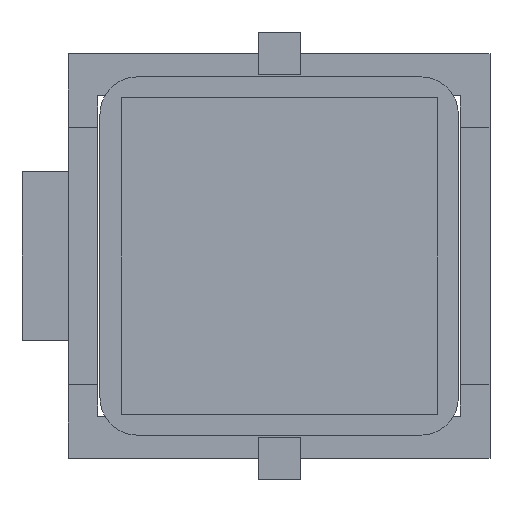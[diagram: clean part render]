
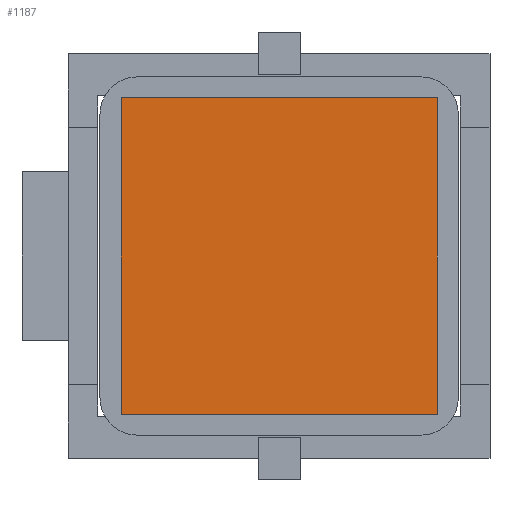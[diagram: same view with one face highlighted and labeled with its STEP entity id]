
A CAD part, front view. The second image highlights one B-rep face of the part: STEP entity #1187.
In plain terms, the highlighted planar face has unit normal (0, -1, 0).
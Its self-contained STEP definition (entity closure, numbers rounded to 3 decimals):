
#5 = VECTOR ( 'NONE', #4349, 1000. ) ;
#80 = CARTESIAN_POINT ( 'NONE',  ( -3.413, -13.936, 14.725 ) ) ;
#148 = CARTESIAN_POINT ( 'NONE',  ( -3.413, -13.936, 14.725 ) ) ;
#293 = VECTOR ( 'NONE', #2383, 1000. ) ;
#315 = VERTEX_POINT ( 'NONE', #3814 ) ;
#468 = DIRECTION ( 'NONE',  ( 0., 0., 1. ) ) ;
#679 = EDGE_LOOP ( 'NONE', ( #1474, #4099, #3527, #2072 ) ) ;
#703 = LINE ( 'NONE', #2103, #293 ) ;
#949 = DIRECTION ( 'NONE',  ( 0., 0., 1. ) ) ;
#999 = EDGE_CURVE ( 'NONE', #3413, #315, #2523, .T. ) ;
#1181 = DIRECTION ( 'NONE',  ( 0., 1., 0. ) ) ;
#1187 = ADVANCED_FACE ( 'NONE', ( #3085 ), #3130, .F. ) ;
#1474 = ORIENTED_EDGE ( 'NONE', *, *, #4162, .F. ) ;
#1535 = CARTESIAN_POINT ( 'NONE',  ( 11.587, -13.936, -0.275 ) ) ;
#1546 = LINE ( 'NONE', #2967, #2971 ) ;
#1607 = EDGE_CURVE ( 'NONE', #315, #2141, #703, .T. ) ;
#1641 = DIRECTION ( 'NONE',  ( 1., 0., 0. ) ) ;
#1670 = CARTESIAN_POINT ( 'NONE',  ( -3.413, -13.936, -0.275 ) ) ;
#2072 = ORIENTED_EDGE ( 'NONE', *, *, #4367, .F. ) ;
#2103 = CARTESIAN_POINT ( 'NONE',  ( -3.413, -13.936, -0.275 ) ) ;
#2141 = VERTEX_POINT ( 'NONE', #4332 ) ;
#2201 = VECTOR ( 'NONE', #949, 1000. ) ;
#2383 = DIRECTION ( 'NONE',  ( -1., 0., 0. ) ) ;
#2402 = CARTESIAN_POINT ( 'NONE',  ( 11.587, -13.936, 14.725 ) ) ;
#2523 = LINE ( 'NONE', #1535, #5 ) ;
#2967 = CARTESIAN_POINT ( 'NONE',  ( -3.413, -13.936, 14.725 ) ) ;
#2971 = VECTOR ( 'NONE', #1641, 1000. ) ;
#3085 = FACE_OUTER_BOUND ( 'NONE', #679, .T. ) ;
#3130 = PLANE ( 'NONE',  #3908 ) ;
#3413 = VERTEX_POINT ( 'NONE', #2402 ) ;
#3527 = ORIENTED_EDGE ( 'NONE', *, *, #999, .F. ) ;
#3814 = CARTESIAN_POINT ( 'NONE',  ( 11.587, -13.936, -0.275 ) ) ;
#3854 = LINE ( 'NONE', #1670, #2201 ) ;
#3908 = AXIS2_PLACEMENT_3D ( 'NONE', #80, #1181, #468 ) ;
#4099 = ORIENTED_EDGE ( 'NONE', *, *, #1607, .F. ) ;
#4162 = EDGE_CURVE ( 'NONE', #2141, #4362, #3854, .T. ) ;
#4332 = CARTESIAN_POINT ( 'NONE',  ( -3.413, -13.936, -0.275 ) ) ;
#4349 = DIRECTION ( 'NONE',  ( 0., 0., -1. ) ) ;
#4362 = VERTEX_POINT ( 'NONE', #148 ) ;
#4367 = EDGE_CURVE ( 'NONE', #4362, #3413, #1546, .T. ) ;
